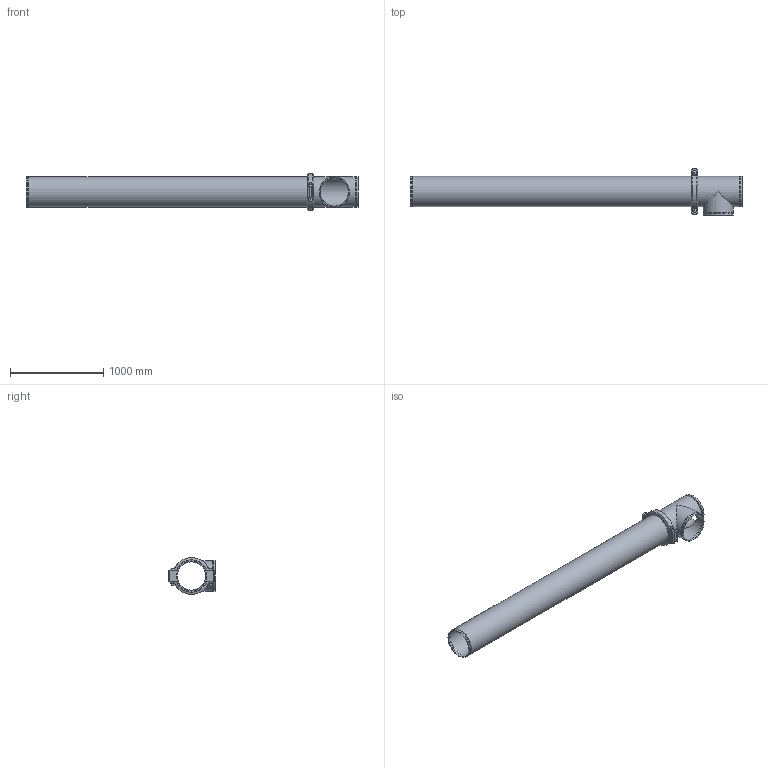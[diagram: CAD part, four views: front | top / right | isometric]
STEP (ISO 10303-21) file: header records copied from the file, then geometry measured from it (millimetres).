
FILE_DESCRIPTION(/* description */ ('VIC LONG RUN FITTING No R25 (OGS)','CAx-IF Rec.Pracs.---Representation and Presentation of Product Manufacturing Information (PMI)---4.0---2014-10-13'),/* implementation_level */ '2;1');
FILE_NAME(/* name */ 'C:\Users\Vjadhav\AppData\Roaming\Autodesk\ApplicationPlugins\Back Up\Victaulic_IPS_Long Run Fittings_No R25 (OGS)\Victaulic_IPS_Long Run Fittings_No R25 (OGS)_12 (300).stp',/* time_stamp */ '2020-10-14T10:39:15+05:00',/* author */ ('Vjadhav'),/* organization */ ('Victaulic'),/* preprocessor_version */ 'ST-DEVELOPER v17.2',/* originating_system */ 'Autodesk Inventor 2019',/* authorisation */ '');
FILE_SCHEMA (('AP242_MANAGED_MODEL_BASED_3D_ENGINEERING_MIM_LF { 1 0 10303 442 1 1 4 }'));
Length unit declared in the file: inch
Products named in the file (4): R25-12.0; 020-12.0; Pipe_R13-12.0; 077-12.0
Assembly tree (3 placements, depth 2):
  R25-12.0
    020-12.0
    Pipe_R13-12.0
    077-12.0
Bounding box: 3559.3 x 498.48 x 397 mm (x, y, z)
Volume: 37192249.5 mm3; surface area: 7523076.9 mm2
Topology: 3 solids, 5 shells, 92 faces, 223 edges, 160 vertices
Faces by surface type: plane 51, cylinder 35, cone 4, bspline 2
Full cylindrical faces by diameter (mm): 25.4 x4, 27.432 x2, 304.8 x3, 314.96 x1, 318.287 x5, 323.85 x10
Entity records: 3234 total; most frequent: CARTESIAN_POINT 690, DIRECTION 507, ORIENTED_EDGE 446, EDGE_CURVE 223, AXIS2_PLACEMENT_3D 207, VERTEX_POINT 160, EDGE_LOOP 123, CIRCLE 104
